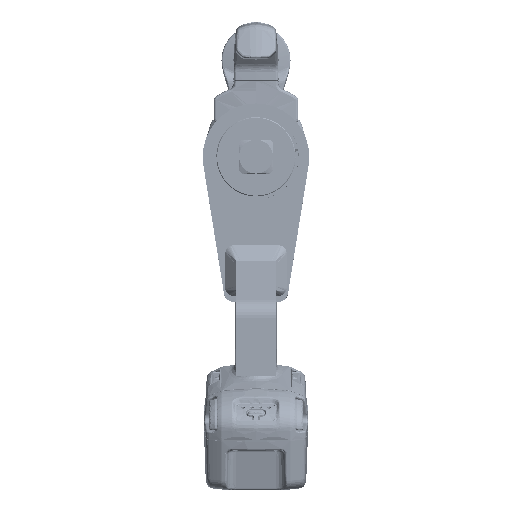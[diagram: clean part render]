
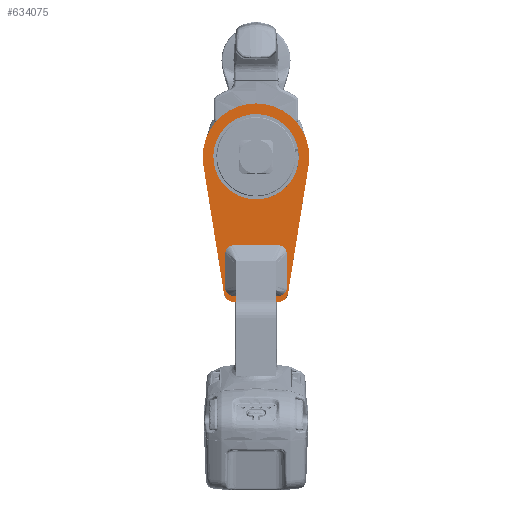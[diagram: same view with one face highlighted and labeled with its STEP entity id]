
A CAD part, top view. The second image highlights one B-rep face of the part: STEP entity #634075.
In plain terms, the highlighted planar face has unit normal (0, 0, 1).
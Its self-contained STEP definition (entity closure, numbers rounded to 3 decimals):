
#633630=DIRECTION('',(0.159,-0.987,0.));
#633631=VECTOR('',#633630,97.58);
#633632=CARTESIAN_POINT('',(-39.493,-6.345,233.35));
#633633=LINE('',#633632,#633631);
#633634=CARTESIAN_POINT('',(0.,0.,233.35));
#633635=DIRECTION('',(0.,0.,1.));
#633636=DIRECTION('',(0.,1.,0.));
#633637=AXIS2_PLACEMENT_3D('',#633634,#633635,#633636);
#633639=CARTESIAN_POINT('',(0.,0.,233.35));
#633640=DIRECTION('',(0.,0.,1.));
#633641=DIRECTION('',(0.987,-0.159,0.));
#633642=AXIS2_PLACEMENT_3D('',#633639,#633640,#633641);
#633644=DIRECTION('',(0.159,0.987,0.));
#633645=VECTOR('',#633644,97.58);
#633646=CARTESIAN_POINT('',(24.014,-102.69,233.35));
#633647=LINE('',#633646,#633645);
#633648=CARTESIAN_POINT('',(16.609,-101.5,233.35));
#633649=DIRECTION('',(0.,0.,1.));
#633650=DIRECTION('',(0.,-1.,0.));
#633651=AXIS2_PLACEMENT_3D('',#633648,#633649,#633650);
#633653=CARTESIAN_POINT('',(-16.609,-101.5,233.35));
#633654=DIRECTION('',(0.,0.,1.));
#633655=DIRECTION('',(-0.987,-0.159,
0.));
#633656=AXIS2_PLACEMENT_3D('',#633653,#633654,#633655);
#633698=DIRECTION('',(-1.,0.,0.));
#633699=VECTOR('',#633698,33.218);
#633700=CARTESIAN_POINT('',(16.609,-109.,233.35));
#633701=LINE('',#633700,#633699);
#633978=CARTESIAN_POINT('',(-39.493,-6.345,233.35));
#633979=CARTESIAN_POINT('',(-24.014,-102.69,233.35));
#633980=VERTEX_POINT('',#633978);
#633981=VERTEX_POINT('',#633979);
#633982=CARTESIAN_POINT('',(-16.609,-109.,233.35));
#633983=VERTEX_POINT('',#633982);
#633984=CARTESIAN_POINT('',(16.609,-109.,233.35));
#633985=VERTEX_POINT('',#633984);
#633986=CARTESIAN_POINT('',(24.014,-102.69,233.35));
#633987=VERTEX_POINT('',#633986);
#633988=CARTESIAN_POINT('',(39.493,-6.345,233.35));
#633989=VERTEX_POINT('',#633988);
#633990=CARTESIAN_POINT('',(0.,40.,233.35));
#633991=VERTEX_POINT('',#633990);
#634054=CARTESIAN_POINT('',(0.,0.,233.35));
#634055=DIRECTION('',(0.,0.,1.));
#634056=DIRECTION('',(0.,1.,0.));
#634057=AXIS2_PLACEMENT_3D('',#634054,#634055,#634056);
#634058=PLANE('',#634057);
#634060=ORIENTED_EDGE('',*,*,#634059,.F.);
#634062=ORIENTED_EDGE('',*,*,#634061,.F.);
#634064=ORIENTED_EDGE('',*,*,#634063,.F.);
#634066=ORIENTED_EDGE('',*,*,#634065,.F.);
#634068=ORIENTED_EDGE('',*,*,#634067,.F.);
#634070=ORIENTED_EDGE('',*,*,#634069,.T.);
#634072=ORIENTED_EDGE('',*,*,#634071,.F.);
#634073=EDGE_LOOP('',(#634060,#634062,#634064,#634066,#634068,#634070,#634072));
#634074=FACE_OUTER_BOUND('',#634073,.F.);
#634075=ADVANCED_FACE('',(#634074),#634058,.T.);
#633638=CIRCLE('',#633637,40.);
#633643=CIRCLE('',#633642,40.);
#633652=CIRCLE('',#633651,7.5);
#633657=CIRCLE('',#633656,7.5);
#634059=EDGE_CURVE('',#633980,#633981,#633633,.T.);
#634061=EDGE_CURVE('',#633991,#633980,#633638,.T.);
#634063=EDGE_CURVE('',#633989,#633991,#633643,.T.);
#634065=EDGE_CURVE('',#633987,#633989,#633647,.T.);
#634067=EDGE_CURVE('',#633985,#633987,#633652,.T.);
#634069=EDGE_CURVE('',#633985,#633983,#633701,.T.);
#634071=EDGE_CURVE('',#633981,#633983,#633657,.T.);
